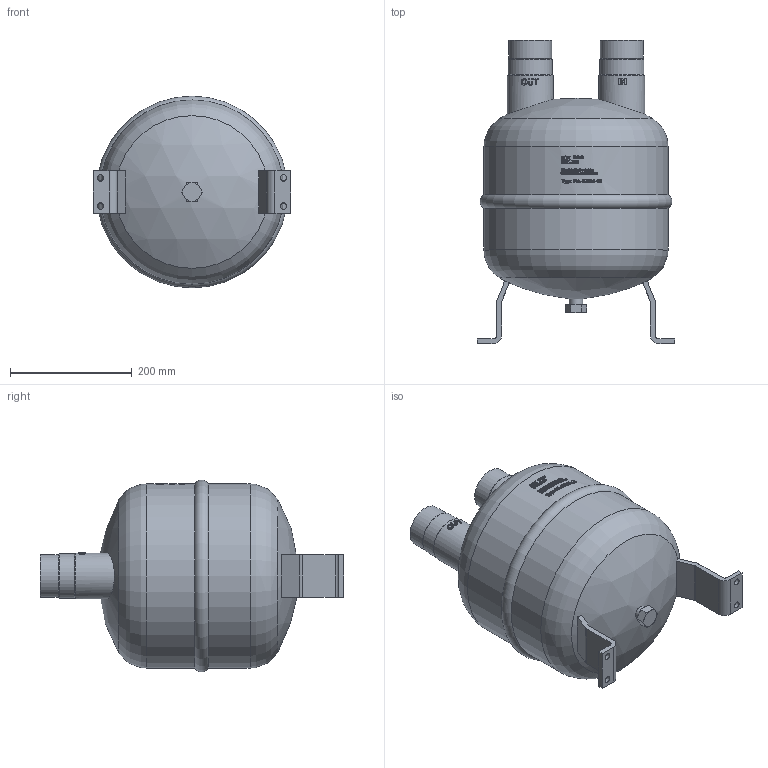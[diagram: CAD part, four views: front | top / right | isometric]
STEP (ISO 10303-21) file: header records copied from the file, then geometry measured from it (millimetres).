
FILE_DESCRIPTION(/* description */ (''),/* implementation_level */ '2;1');
FILE_NAME(/* name */ 'P:\FA\FA-67_64-18\FA-67_64-18_AG-Kunde.stp',/* time_stamp */ '2016-02-25T09:08:15+01:00',/* author */ ('neufeld'),/* organization */ (''),/* preprocessor_version */ 'ST-DEVELOPER v16.1',/* originating_system */ 'Autodesk Inventor 2016',/* authorisation */ '');
FILE_SCHEMA (('AUTOMOTIVE_DESIGN { 1 0 10303 214 3 1 1 }'));
Length unit declared in the file: millimetre
Products named in the file (1): FA-67_64-18_AG-Kunde
Bounding box: 324 x 497.9 x 314.31 mm (x, y, z)
Volume: 20818585.1 mm3; surface area: 477804.1 mm2
Topology: 1 solids, 1 shells, 1276 faces, 3450 edges, 2293 vertices
Faces by surface type: plane 689, bspline 436, cylinder 130, cone 16, torus 3, sphere 2
Full cylindrical faces by diameter (mm): 10.5 x4, 22.5 x1, 64.3 x2, 70 x2, 72.5 x2, 75.4 x2, 302 x2
Entity records: 49881 total; most frequent: CARTESIAN_POINT 19902, ORIENTED_EDGE 6854, DIRECTION 5101, EDGE_CURVE 3427, VERTEX_POINT 2292, AXIS2_PLACEMENT_3D 1731, LINE 1639, VECTOR 1639
